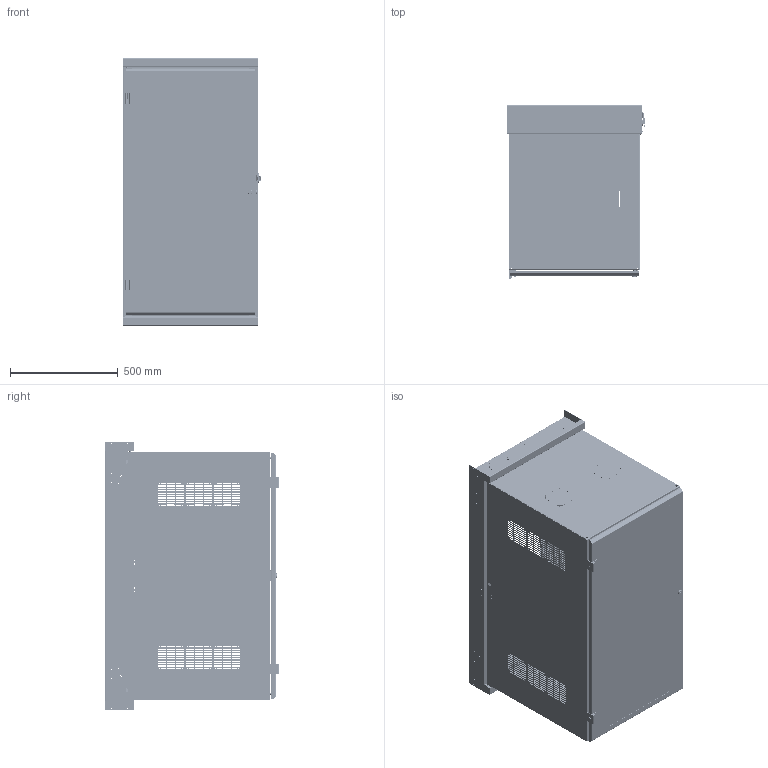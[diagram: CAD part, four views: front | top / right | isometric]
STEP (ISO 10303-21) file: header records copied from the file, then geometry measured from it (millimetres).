
FILE_DESCRIPTION(/* description */ ('Unknown'),/* implementation_level */ '2;1');
FILE_NAME(/* name */ 'HWM2424U26WDBK',/* time_stamp */ '2024-07-29T14:59:32-04:00',/* author */ ('Unknown'),/* organization */ ('Unknown'),/* preprocessor_version */ 'ST-DEVELOPER v18.104',/* originating_system */ 'Solid Edge',/* authorisation */ 'Unknown');
FILE_SCHEMA (('AUTOMOTIVE_DESIGN {1 0 10303 214 3 1 1}'));
Products named in the file (49): HWM2424U26WD; COM57687-9; COM56894-3T; STD21878; COM57684-9; HNG14583; COM54375; COM57382-23; COM57384-3; COM57383-1; BSH87667; COM56897-3; FET07734; STR22105; CCH03747; CCH03748-10deg; CCH03748D; CCH03748B; CCH03748E; CCH03748A; CCH03748C; COM56905; LOC13349; LOC13349B; LOC13349A; LAB20204; COM57690-24U; FET07750; COM56910-3; COM57690-3; std26020; COM57333-43; LOC13410; LOC13410B; HNG14605; HNG14605-1; HNG14604-1A; HNG14604-1B; HNG14605-1C; HNG14604-2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
Assembly tree (88 placements, depth 5):
  HWM2424U26WD
    COM57687-9
      COM56894-3T  x2
        STD21878
        COM56894-3T
      COM57684-9  x2
      HNG14583
      COM54375
    COM57382-23
      COM57384-3  x2
      COM57383-1  x2
        STD21878
        COM57383-1
      BSH87667  x4
    COM56897-3  x2
    FET07734  x4
    STR22105
    CCH03747
    CCH03748-10deg
      CCH03748D
      CCH03748B
      CCH03748E
      CCH03748A
      CCH03748C
    COM56905
    LOC13349
      LOC13349B
      LOC13349A
    LAB20204
    COM57690-24U
      FET07750  x2
      COM56910-3  x2
      COM57690-3
        COM57690-3
        std26020  x10
      COM57333-43
      LOC13410
        LOC13410B
        LOC13349A
      HNG14605
        HNG14605-1
          HNG14604-1A
          HNG14604-1B
          HNG14605-1C
        HNG14604-2  x2
        HNG14605-3
      HNG14604
        HNG14604-3
        HNG14604-2  x2
        HNG14604-1
          HNG14604-1A
          HNG14604-1B
          HNG14604-1C
      NTS17050  x8
Bounding box: 641.2 x 807.27 x 1239.82 mm (x, y, z)
Volume: 9048927.7 mm3; surface area: 10521076.6 mm2
Topology: 81 solids, 81 shells, 5252 faces, 14587 edges, 9748 vertices
Faces by surface type: plane 3136, cylinder 1994, bspline 53, cone 48, torus 17, sphere 4
Full cylindrical faces by diameter (mm): 2.54 x2, 3.048 x2, 3.175 x54, 3.454 x4, 3.962 x8, 3.967 x8, 4.039 x8, 4.297 x2, 4.496 x144, 4.775 x60, 4.978 x1, 5.334 x6, 5.461 x2, 5.537 x8, 6 x4, 6.02 x2, 6.1 x2, 6.2 x8, 6.35 x24, 7.137 x8, 7.938 x12, 8.992 x2, 9.246 x4, 9.95 x8, 10 x2, 10.312 x12, 11.125 x2, 11.684 x2, 12.7 x12, 13.005 x1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
Entity records: 93883 total; most frequent: CARTESIAN_POINT 18782, DIRECTION 15172, ORIENTED_EDGE 14890, EDGE_CURVE 7445, AXIS2_PLACEMENT_3D 5177, VERTEX_POINT 5080, LINE 4818, VECTOR 4818
